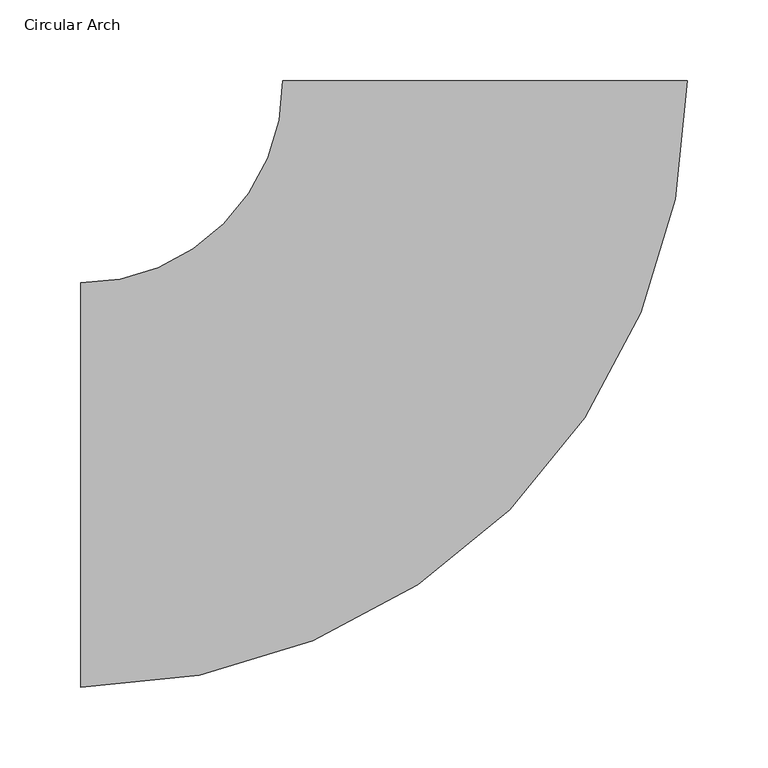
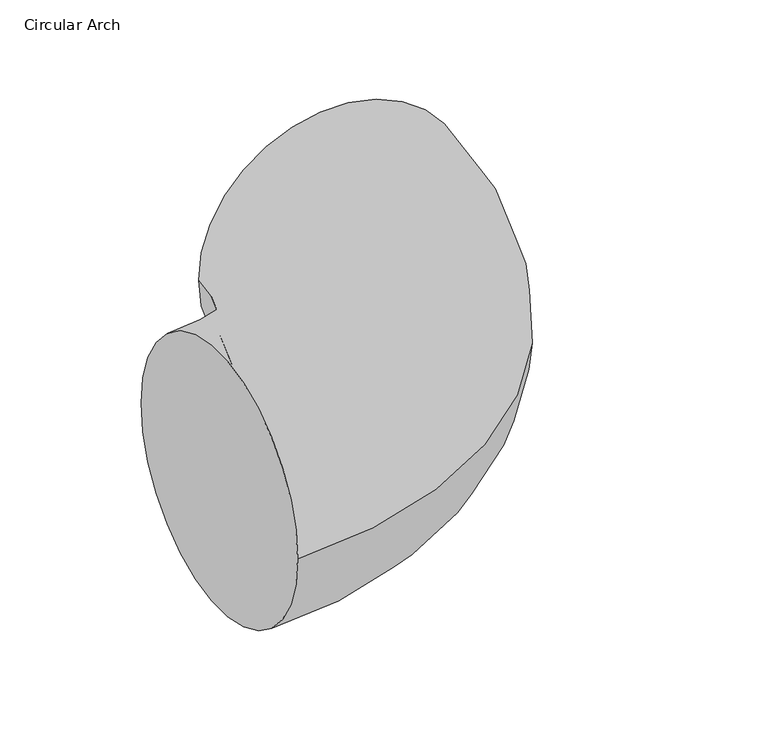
"""IFC4 building model written with IfcOpenShell, lengths in millimetres: duct fitting geometry, Prihoda Circular Duct Arch : Circular Arch."""

from ifc_helpers import new_model, si_unit, point, frame, origin, place, context, project, spatial, circle_curve, ellipse_curve, trimmed, source, transform, mapped, element, save
from ifc_brep_helpers import plane_surface, revolved_surface, advanced_brep


def circular_arch_7d146bea(model_context):
    return source(origin(), model_context, "Body", "AdvancedBrep", [
        advanced_brep(
        [(-250.0, -125.0, 0.0), (-250.0, 125.0, 0.0), (125.0, 250.0, 0.0), (-125.0, 250.0, 0.0)],
        [
            (0, 1, circle_curve(frame((-250.0, 0.0, 0.0), z_axis=(-1.0, 0.0, 0.0), x_axis=(0.0, 1.0, 0.0)), 125.0)),
            (1, 0, circle_curve(frame((-250.0, 0.0, 0.0), z_axis=(-1.0, 0.0, 0.0), x_axis=(0.0, 1.0, 0.0)), 125.0)),
            (2, 3, circle_curve(frame((0.0, 250.0, 0.0), z_axis=(0.0, 1.0, 0.0), x_axis=(-1.0, 0.0, 0.0)), 125.0)),
            (3, 2, circle_curve(frame((0.0, 250.0, 0.0), z_axis=(0.0, 1.0, 0.0), x_axis=(-1.0, 0.0, 0.0)), 125.0)),
            (3, 1, circle_curve(frame((-250.0, 250.0, 0.0), z_axis=(0.0, 0.0, -1.0), x_axis=(0.0, -1.0, 0.0)), 125.0)),
            (0, 2, circle_curve(frame((-250.0, 250.0, 0.0), z_axis=(0.0, 0.0, 1.0), x_axis=(0.0, -1.0, 0.0)), 375.0)),
        ],
        [
            plane_surface(frame((-250.0, 0.0, 0.0), z_axis=(-1.0, 0.0, 0.0), x_axis=(0.0, 0.0, 1.0))),
            plane_surface(frame((0.0, 250.0, 0.0), z_axis=(0.0, 1.0, 0.0), x_axis=(0.0, 0.0, 1.0))),
            revolved_surface(trimmed(ellipse_curve(frame((-250.0, 0.0, 0.0), z_axis=(-1.0, 0.0, 0.0), x_axis=(0.0, 1.0, 0.0)), 125.0, 125.0), [point((-250.0, -125.0, 0.0))], [point((-250.0, 125.0, 0.0))], True, "CARTESIAN"), (-250.0, 250.0, 0.0), (0.0, 0.0, 1.0)),
            revolved_surface(trimmed(ellipse_curve(frame((-250.0, 0.0, 0.0), z_axis=(-1.0, 0.0, 0.0), x_axis=(0.0, 1.0, 0.0)), 125.0, 125.0), [point((-250.0, 125.0, 0.0))], [point((-250.0, -125.0, 0.0))], True, "CARTESIAN"), (-250.0, 250.0, 0.0), (0.0, 0.0, 1.0)),
        ],
        [
            (0, [[1, 2]]),
            (1, [[3, 4]]),
            (2, [[5, -1, 6, -4]]),
            (3, [[-6, -2, -5, -3]]),
        ],
    ),
    ])


if __name__ == "__main__":
    model = new_model("IFC4")
    model_context = context("Model", 3, world=origin())
    ifc_project = project(units=[si_unit("LENGTHUNIT", "METRE", prefix="MILLI")], contexts=[model_context])
    site = spatial("IfcSite", under=ifc_project)
    building = spatial("IfcBuilding", under=site)
    placement = place(None, origin())
    circular_arch_shape = circular_arch_7d146bea(model_context)
    element("IfcDuctFitting", 1, ObjectType="Prihoda Circular Duct Arch : Circular Arch", at=placement, inside=building, context=model_context, shape_type="MappedRepresentation", body=[
        mapped(circular_arch_shape, transform((0.0, 0.0, 0.0), x_axis=(1.0, 0.0, 0.0), y_axis=(0.0, 1.0, 0.0), z_axis=(0.0, 0.0, 1.0))),
    ])
    save(model, "model.ifc")
